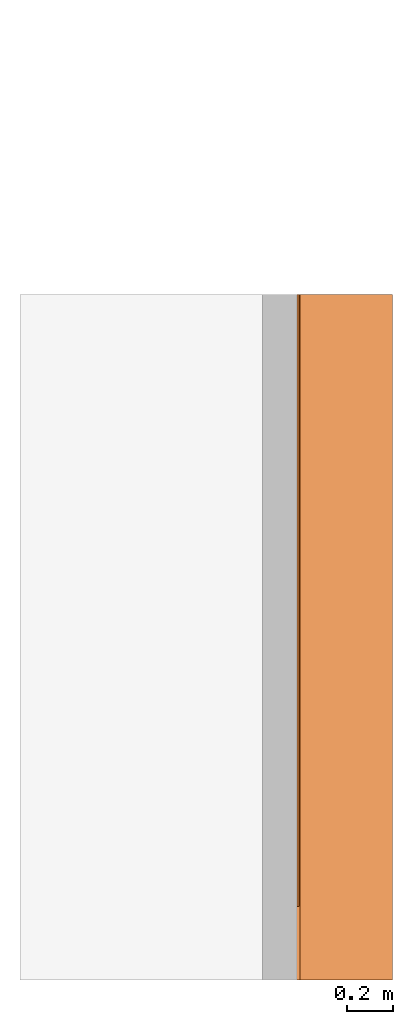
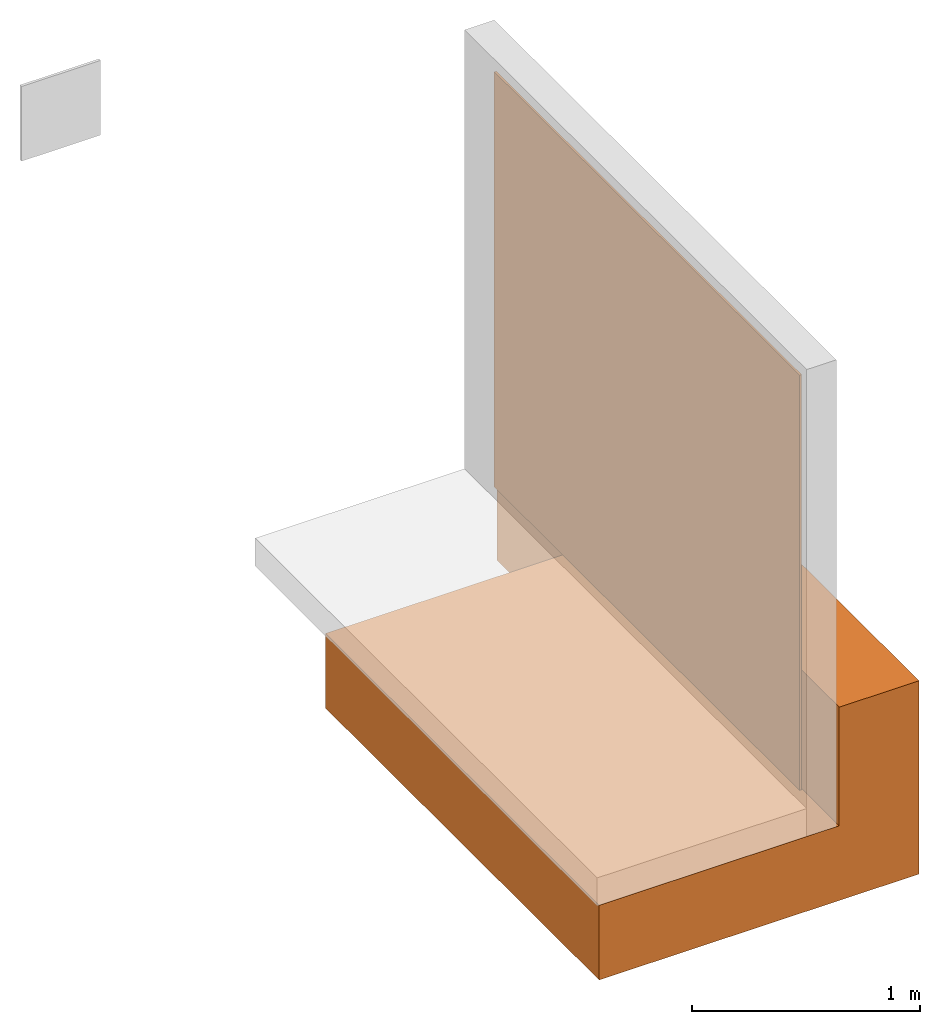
# One storey, part 2 of 2: 1 proxy.
"""IFC2X3 building model written with IfcOpenShell, lengths in metres."""

from ifc_helpers import new_model, entity, si_unit, converted_unit, derived_unit, direction, frame, frame_2d, origin, place, context, subcontext, project, spatial, polyline, circle_curve, parameter, trimmed, segment, composite_curve, rectangle, outline, extrude, source, transform, mapped, material, material_list, type_object, type_shapes, element, save


model = new_model("IFC2X3")

# Units and contexts
model_context = context("Model", 3, precision=1e-05, world=origin(), true_north=direction((6.123031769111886e-17, 1.0)))
body_context = subcontext(model_context, "Body", "Model", "MODEL_VIEW")
ifc_project = project(units=[si_unit("LENGTHUNIT", "METRE"), si_unit("AREAUNIT", "SQUARE_METRE"), si_unit("VOLUMEUNIT", "CUBIC_METRE"), converted_unit("PLANEANGLEUNIT", "DEGREE", entity("IfcRatioMeasure", 0.017453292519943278), si_unit("PLANEANGLEUNIT", "RADIAN"), dimensions=[0, 0, 0, 0, 0, 0, 0]), si_unit("MASSUNIT", "GRAM", prefix="KILO"), derived_unit("MASSDENSITYUNIT", [(si_unit("MASSUNIT", "GRAM", prefix="KILO"), 1), (si_unit("LENGTHUNIT", "METRE"), -3)]), derived_unit("IONCONCENTRATIONUNIT", [(si_unit("MASSUNIT", "GRAM", prefix="KILO"), 1), (si_unit("LENGTHUNIT", "METRE"), -3)]), derived_unit("MOMENTOFINERTIAUNIT", [(si_unit("LENGTHUNIT", "METRE"), 4)]), si_unit("TIMEUNIT", "SECOND"), si_unit("FREQUENCYUNIT", "HERTZ"), si_unit("THERMODYNAMICTEMPERATUREUNIT", "DEGREE_CELSIUS"), derived_unit("THERMALTRANSMITTANCEUNIT", [(si_unit("MASSUNIT", "GRAM", prefix="KILO"), 1), (si_unit("THERMODYNAMICTEMPERATUREUNIT", "KELVIN"), -1), (si_unit("TIMEUNIT", "SECOND"), -3)]), derived_unit("THERMALCONDUCTANCEUNIT", [(si_unit("MASSUNIT", "GRAM", prefix="KILO"), 1), (si_unit("THERMODYNAMICTEMPERATUREUNIT", "KELVIN"), -1), (si_unit("TIMEUNIT", "SECOND"), -3), (si_unit("LENGTHUNIT", "METRE"), 1)]), derived_unit("VOLUMETRICFLOWRATEUNIT", [(si_unit("LENGTHUNIT", "METRE"), 3), (si_unit("TIMEUNIT", "SECOND"), -1)]), derived_unit("MASSFLOWRATEUNIT", [(si_unit("MASSUNIT", "GRAM", prefix="KILO"), 1), (si_unit("TIMEUNIT", "SECOND"), -1)]), derived_unit("ROTATIONALFREQUENCYUNIT", [(si_unit("TIMEUNIT", "SECOND"), -1)]), si_unit("ELECTRICCURRENTUNIT", "AMPERE"), si_unit("ELECTRICVOLTAGEUNIT", "VOLT"), si_unit("POWERUNIT", "WATT"), si_unit("FORCEUNIT", "NEWTON", prefix="KILO"), si_unit("ILLUMINANCEUNIT", "LUX"), si_unit("LUMINOUSFLUXUNIT", "LUMEN"), si_unit("LUMINOUSINTENSITYUNIT", "CANDELA"), derived_unit("USERDEFINED", [(si_unit("MASSUNIT", "GRAM", prefix="KILO"), -1), (si_unit("LENGTHUNIT", "METRE"), -2), (si_unit("TIMEUNIT", "SECOND"), 3), (si_unit("LUMINOUSFLUXUNIT", "LUMEN"), 1)]), derived_unit("USERDEFINED", [(si_unit("MASSUNIT", "GRAM", prefix="KILO"), 1), (si_unit("TIMEUNIT", "SECOND"), -3), (si_unit("LENGTHUNIT", "METRE"), 3), (si_unit("ELECTRICCURRENTUNIT", "AMPERE"), -2)]), derived_unit("SOUNDPOWERUNIT", [(si_unit("MASSUNIT", "GRAM", prefix="KILO"), 1), (si_unit("TIMEUNIT", "SECOND"), -3), (si_unit("LENGTHUNIT", "METRE"), 2)]), derived_unit("SOUNDPRESSUREUNIT", [(si_unit("MASSUNIT", "GRAM", prefix="KILO"), 1), (si_unit("LENGTHUNIT", "METRE"), -1), (si_unit("TIMEUNIT", "SECOND"), -2)]), derived_unit("LINEARVELOCITYUNIT", [(si_unit("LENGTHUNIT", "METRE"), 1), (si_unit("TIMEUNIT", "SECOND"), -1)]), si_unit("PRESSUREUNIT", "PASCAL"), derived_unit("USERDEFINED", [(si_unit("MASSUNIT", "GRAM", prefix="KILO"), 1), (si_unit("LENGTHUNIT", "METRE"), -2), (si_unit("TIMEUNIT", "SECOND"), -2)]), derived_unit("LINEARFORCEUNIT", [(si_unit("MASSUNIT", "GRAM", prefix="KILO"), 1), (si_unit("TIMEUNIT", "SECOND"), -2)]), derived_unit("PLANARFORCEUNIT", [(si_unit("MASSUNIT", "GRAM", prefix="KILO"), 1), (si_unit("LENGTHUNIT", "METRE"), -1), (si_unit("TIMEUNIT", "SECOND"), -2)]), derived_unit("SPECIFICHEATCAPACITYUNIT", [(si_unit("THERMODYNAMICTEMPERATUREUNIT", "KELVIN"), -1), (si_unit("LENGTHUNIT", "METRE"), 2), (si_unit("TIMEUNIT", "SECOND"), -2)]), derived_unit("HEATINGVALUEUNIT", [(si_unit("LENGTHUNIT", "METRE"), 2), (si_unit("TIMEUNIT", "SECOND"), -2)]), derived_unit("VAPORPERMEABILITYUNIT", [(si_unit("LENGTHUNIT", "METRE"), -1), (si_unit("TIMEUNIT", "SECOND"), 1)]), derived_unit("DYNAMICVISCOSITYUNIT", [(si_unit("MASSUNIT", "GRAM", prefix="KILO"), 1), (si_unit("TIMEUNIT", "SECOND"), -1), (si_unit("LENGTHUNIT", "METRE"), -1)]), derived_unit("THERMALEXPANSIONCOEFFICIENTUNIT", [(si_unit("THERMODYNAMICTEMPERATUREUNIT", "KELVIN"), -1)]), derived_unit("MODULUSOFELASTICITYUNIT", [(si_unit("MASSUNIT", "GRAM", prefix="KILO"), 1), (si_unit("LENGTHUNIT", "METRE"), -1), (si_unit("TIMEUNIT", "SECOND"), -2)]), derived_unit("ISOTHERMALMOISTURECAPACITYUNIT", [(si_unit("LENGTHUNIT", "METRE"), 3), (si_unit("MASSUNIT", "GRAM", prefix="KILO"), -1)]), derived_unit("MOISTUREDIFFUSIVITYUNIT", [(si_unit("TIMEUNIT", "SECOND"), -1), (si_unit("LENGTHUNIT", "METRE"), 2)])], contexts=[model_context])

# Site, building, storey
site_placement = place(None, origin())
site = spatial("IfcSite", under=ifc_project, at=site_placement, Name="Default", CompositionType="ELEMENT")
building_placement = place(site_placement, origin())
building = spatial("IfcBuilding", under=site, at=building_placement, CompositionType="ELEMENT")
storey_placement = place(building_placement, frame((0.0, 0.0, -0.0025237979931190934)))
storey = spatial("IfcBuildingStorey", under=building, at=storey_placement, Name="ARQ Térreo", CompositionType="ELEMENT", Elevation=-0.0025237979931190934)

# Proxy
ifc_material_1 = material(Name="#argamassa")
ifc_material_2 = material(Name="#solo")
ifc_material_3 = material(Name="#Geotextil")
ifc_material_4 = material(Name="#Vitkote Elastic")
ifc_material_list = material_list([ifc_material_1, ifc_material_2, ifc_material_3, ifc_material_4])
building_element_proxy_type = type_object("IfcBuildingElementProxyType", Name="IMPER:IMPER", PredefinedType="NOTDEFINED", material=ifc_material_list)
shared_shape = source(origin(), body_context, "Body", "SweptSolid", [
    extrude(rectangle(XDim=2.679192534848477, YDim=0.009972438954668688, at=frame_2d((-3.3306690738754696e-16, 0.0), x_axis=(1.0, 0.0))), frame((-0.346984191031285, -1.1937262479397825, -0.0025237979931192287), z_axis=(0.0, 0.0, 1.0), x_axis=(0.0, -1.0, 0.0)), (0.0, 0.0, 1.0), 2.222530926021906),
    extrude(rectangle(XDim=2.4000000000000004, YDim=1.2158489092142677, at=frame_2d((-1.1102230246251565e-16, 0.0), x_axis=(1.0, 0.0))), frame((-0.9448559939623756, -1.6541299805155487, -0.402523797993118), z_axis=(0.0, 0.0, 1.0), x_axis=(0.0, 1.0, 0.0)), (0.0, 0.0, 1.0), 0.4000000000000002),
    extrude(rectangle(XDim=2.999999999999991, YDim=0.4039724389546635, at=frame_2d((-1.1102230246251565e-16, 0.0), x_axis=(1.0, 0.0))), frame((-0.1349453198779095, -1.3541299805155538, -0.40252379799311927), z_axis=(0.0, 0.0, 1.0), x_axis=(0.0, 1.0, 0.0)), (0.0, 0.0, 1.0), 1.0348744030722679),
    extrude(outline(composite_curve([segment(polyline([(-0.008387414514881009, -1.0533509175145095), (-0.005387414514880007, -1.0533509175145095)]), True, "CONTINUOUS"), segment(polyline([(-0.005387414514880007, -1.0533509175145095), (-0.005387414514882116, 0.26333772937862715)]), True, "CONTINUOUS"), segment(trimmed(circle_curve(frame_2d((0.0016125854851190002, 0.2633377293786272), x_axis=(1.0, 0.0)), 0.007000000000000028), [parameter(3.053332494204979e-13)], [parameter(179.99999999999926)], True, "PARAMETER"), False, "CONTINUOUS"), segment(trimmed(circle_curve(frame_2d((0.005091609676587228, 0.2633377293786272), x_axis=(1.0, 0.0)), 0.0035209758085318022), [parameter(179.99999999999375)], [parameter(8.651108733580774e-13)], True, "PARAMETER"), False, "CONTINUOUS"), segment(trimmed(circle_curve(frame_2d((0.0018311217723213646, 0.2633377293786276), x_axis=(1.0, 0.0)), 0.00026048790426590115), [parameter(359.9999999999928)], [parameter(180.00000000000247)], True, "PARAMETER"), False, "CONTINUOUS"), segment(polyline([(0.002091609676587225, 0.26333772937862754), (0.005091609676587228, 0.26333772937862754)]), True, "CONTINUOUS"), segment(trimmed(circle_curve(frame_2d((0.0018311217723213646, 0.2633377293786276), x_axis=(1.0, 0.0)), 0.003260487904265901), [parameter(359.99999999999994)], [parameter(179.99999999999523)], True, "PARAMETER"), True, "CONTINUOUS"), segment(trimmed(circle_curve(frame_2d((0.005091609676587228, 0.2633377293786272), x_axis=(1.0, 0.0)), 0.006520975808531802), [parameter(179.9999999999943)], [parameter(1.0177774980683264e-12)], True, "PARAMETER"), True, "CONTINUOUS"), segment(trimmed(circle_curve(frame_2d((0.0016125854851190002, 0.2633377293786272), x_axis=(1.0, 0.0)), 0.010000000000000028), [parameter(7.124442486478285e-13)], [parameter(179.99999999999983)], True, "PARAMETER"), True, "CONTINUOUS"), segment(polyline([(-0.008387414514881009, 0.2633377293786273), (-0.008387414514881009, -1.0533509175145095)]), True, "CONTINUOUS")], self_intersect=False)), frame((-0.3326105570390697, -1.8541299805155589, 0.26081393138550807), z_axis=(0.0, 1.0, 0.0), x_axis=(1.0, 0.0, 0.0)), (0.0, 0.0, 1.0), 2.0000000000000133),
    extrude(rectangle(XDim=0.0009999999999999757, YDim=2.4000000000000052, at=frame_2d((-3.3881317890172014e-17, 1.1102230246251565e-16), x_axis=(1.0, 0.0))), frame((-0.34149797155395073, -1.054129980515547, -0.0025237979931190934), z_axis=(0.0, 0.0, 1.0), x_axis=(-1.0, 0.0, 0.0)), (0.0, 0.0, 1.0), 1.965708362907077),
])
type_shapes(building_element_proxy_type, [shared_shape])
proxy_placement = place(storey_placement, frame((0.0, 0.0, 0.0025237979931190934)))
element("IfcBuildingElementProxy", 1, at=proxy_placement, inside=storey, type_object=building_element_proxy_type, material=ifc_material_list, Name="IMPER:IMPER:IMPER : IMPER:IMPER", ObjectType="IMPER:IMPER:IMPER : IMPER:IMPER", context=body_context, shape_type="MappedRepresentation", body=[
    mapped(shared_shape, transform((0.0, 0.0, 0.0), scale=1.0)),
])

save(model, "model.ifc")
